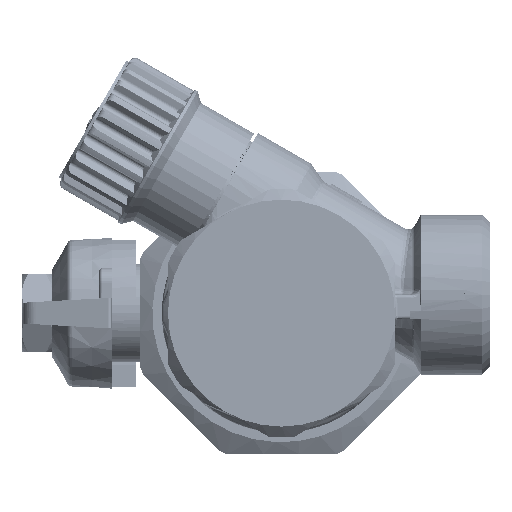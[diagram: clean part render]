
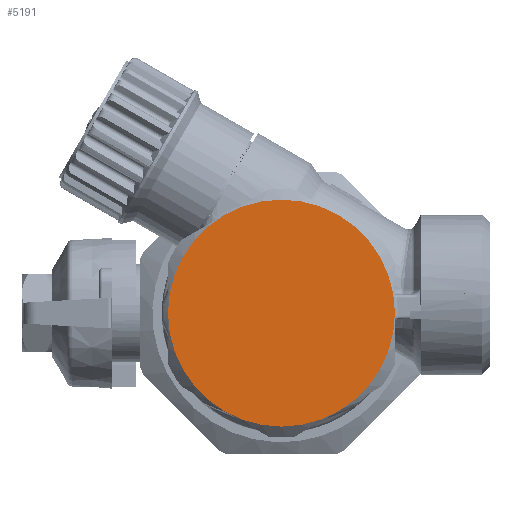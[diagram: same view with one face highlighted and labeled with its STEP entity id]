
A CAD part, left-side view. The second image highlights one B-rep face of the part: STEP entity #5191.
In plain terms, the highlighted planar face has unit normal (-1, 0, 0) as drawn and (0, 0, -1) by its records, which use the part's own axes.
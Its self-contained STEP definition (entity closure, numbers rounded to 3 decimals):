
#5191 = ADVANCED_FACE ( 'NONE', ( #114225 ), #39488, .F. ) ;
#10635 = CARTESIAN_POINT ( 'NONE',  ( 0., 0., 0. ) ) ;
#15777 = ORIENTED_EDGE ( 'NONE', *, *, #105175, .F. ) ;
#19228 = AXIS2_PLACEMENT_3D ( 'NONE', #40198, #85013, #83610 ) ;
#19550 = DIRECTION ( 'NONE',  ( 0., 0., 1. ) ) ;
#24546 = AXIS2_PLACEMENT_3D ( 'NONE', #117042, #19550, #60869 ) ;
#26373 = DIRECTION ( 'NONE',  ( 0., 0., 1. ) ) ;
#27687 = EDGE_CURVE ( 'NONE', #65263, #102520, #96573, .T. ) ;
#32235 = EDGE_CURVE ( 'NONE', #136181, #117584, #70767, .T. ) ;
#32870 = AXIS2_PLACEMENT_3D ( 'NONE', #62909, #86379, #105569 ) ;
#39152 = ORIENTED_EDGE ( 'NONE', *, *, #137307, .F. ) ;
#39488 = PLANE ( 'NONE',  #19228 ) ;
#39940 = ORIENTED_EDGE ( 'NONE', *, *, #65568, .F. ) ;
#40198 = CARTESIAN_POINT ( 'NONE',  ( 0., 0., 0. ) ) ;
#42644 = DIRECTION ( 'NONE',  ( -1., 0., 0. ) ) ;
#44976 = CIRCLE ( 'NONE', #24546, 18.5 ) ;
#46035 = AXIS2_PLACEMENT_3D ( 'NONE', #91735, #91052, #134458 ) ;
#49558 = CIRCLE ( 'NONE', #110787, 18.5 ) ;
#52909 = CARTESIAN_POINT ( 'NONE',  ( 18.5, 0., 0. ) ) ;
#54052 = DIRECTION ( 'NONE',  ( 0., 0., 1. ) ) ;
#54345 = VERTEX_POINT ( 'NONE', #52909 ) ;
#54950 = CARTESIAN_POINT ( 'NONE',  ( 9.25, 16.021, 0. ) ) ;
#60869 = DIRECTION ( 'NONE',  ( 1., 0., 0. ) ) ;
#61986 = AXIS2_PLACEMENT_3D ( 'NONE', #112480, #26373, #79744 ) ;
#62909 = CARTESIAN_POINT ( 'NONE',  ( 0., 0., 0. ) ) ;
#64698 = CARTESIAN_POINT ( 'NONE',  ( 0., 0., 0. ) ) ;
#65263 = VERTEX_POINT ( 'NONE', #73455 ) ;
#65568 = EDGE_CURVE ( 'NONE', #92909, #117584, #130159, .T. ) ;
#70767 = CIRCLE ( 'NONE', #129913, 18.5 ) ;
#73455 = CARTESIAN_POINT ( 'NONE',  ( -9.25, -16.021, 0. ) ) ;
#79744 = DIRECTION ( 'NONE',  ( 1., 0., 0. ) ) ;
#83610 = DIRECTION ( 'NONE',  ( 1., 0., 0. ) ) ;
#85013 = DIRECTION ( 'NONE',  ( 0., 0., 1. ) ) ;
#86379 = DIRECTION ( 'NONE',  ( 0., 0., 1. ) ) ;
#90837 = CARTESIAN_POINT ( 'NONE',  ( -18.5, 0., 0. ) ) ;
#91052 = DIRECTION ( 'NONE',  ( 0., 0., 1. ) ) ;
#91570 = ORIENTED_EDGE ( 'NONE', *, *, #123779, .F. ) ;
#91735 = CARTESIAN_POINT ( 'NONE',  ( 0., 0., 0. ) ) ;
#92909 = VERTEX_POINT ( 'NONE', #54950 ) ;
#96573 = CIRCLE ( 'NONE', #32870, 18.5 ) ;
#97445 = DIRECTION ( 'NONE',  ( 1., 0., 0. ) ) ;
#102520 = VERTEX_POINT ( 'NONE', #120762 ) ;
#102857 = CIRCLE ( 'NONE', #46035, 18.5 ) ;
#105175 = EDGE_CURVE ( 'NONE', #54345, #92909, #44976, .T. ) ;
#105569 = DIRECTION ( 'NONE',  ( 1., 0., 0. ) ) ;
#108781 = DIRECTION ( 'NONE',  ( 0., 0., -1. ) ) ;
#110787 = AXIS2_PLACEMENT_3D ( 'NONE', #10635, #54052, #97445 ) ;
#112480 = CARTESIAN_POINT ( 'NONE',  ( 0., 0., 0. ) ) ;
#114225 = FACE_OUTER_BOUND ( 'NONE', #125280, .T. ) ;
#117042 = CARTESIAN_POINT ( 'NONE',  ( 0., 0., 0. ) ) ;
#117584 = VERTEX_POINT ( 'NONE', #128861 ) ;
#120762 = CARTESIAN_POINT ( 'NONE',  ( 9.25, -16.021, 0. ) ) ;
#123779 = EDGE_CURVE ( 'NONE', #102520, #54345, #49558, .T. ) ;
#125280 = EDGE_LOOP ( 'NONE', ( #15777, #91570, #132225, #39152, #137903, #39940 ) ) ;
#128861 = CARTESIAN_POINT ( 'NONE',  ( -9.25, 16.021, 0. ) ) ;
#129913 = AXIS2_PLACEMENT_3D ( 'NONE', #64698, #108781, #42644 ) ;
#130159 = CIRCLE ( 'NONE', #61986, 18.5 ) ;
#132225 = ORIENTED_EDGE ( 'NONE', *, *, #27687, .F. ) ;
#134458 = DIRECTION ( 'NONE',  ( 1., 0., 0. ) ) ;
#136181 = VERTEX_POINT ( 'NONE', #90837 ) ;
#137307 = EDGE_CURVE ( 'NONE', #136181, #65263, #102857, .T. ) ;
#137903 = ORIENTED_EDGE ( 'NONE', *, *, #32235, .T. ) ;
